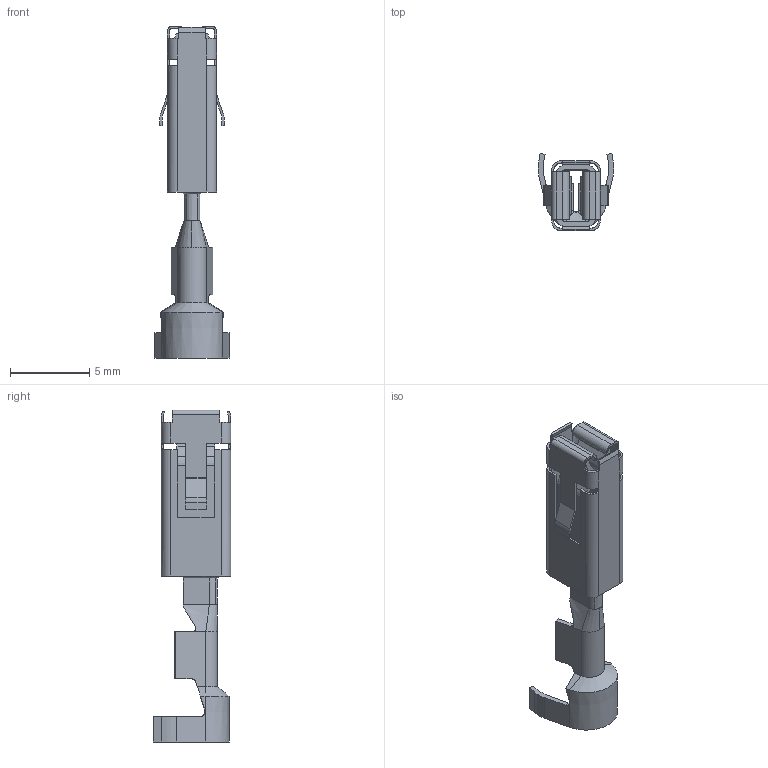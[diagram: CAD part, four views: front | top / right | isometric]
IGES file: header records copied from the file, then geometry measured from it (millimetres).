
Start section:  PTC IGES file: c-967542-1-c5-3d.igs
Global section: file name: c-967542-1-c5-3d.igs; native system: Pro/ENGINEER by Parametric Technology Corporation; preprocessor: 2005450; author: workeradm; organization: Unknown; date: 081011.023654; units: millimetre
Bounding box: 4.8 x 4.9 x 21 mm (x, y, z)
Surface area: 599.5 mm2 (no closed solid volume)
Topology: 0 solids, 0 shells, 242 faces, 1372 edges, 1372 vertices
Faces by surface type: bspline 160, revolution 76, extrusion 6
